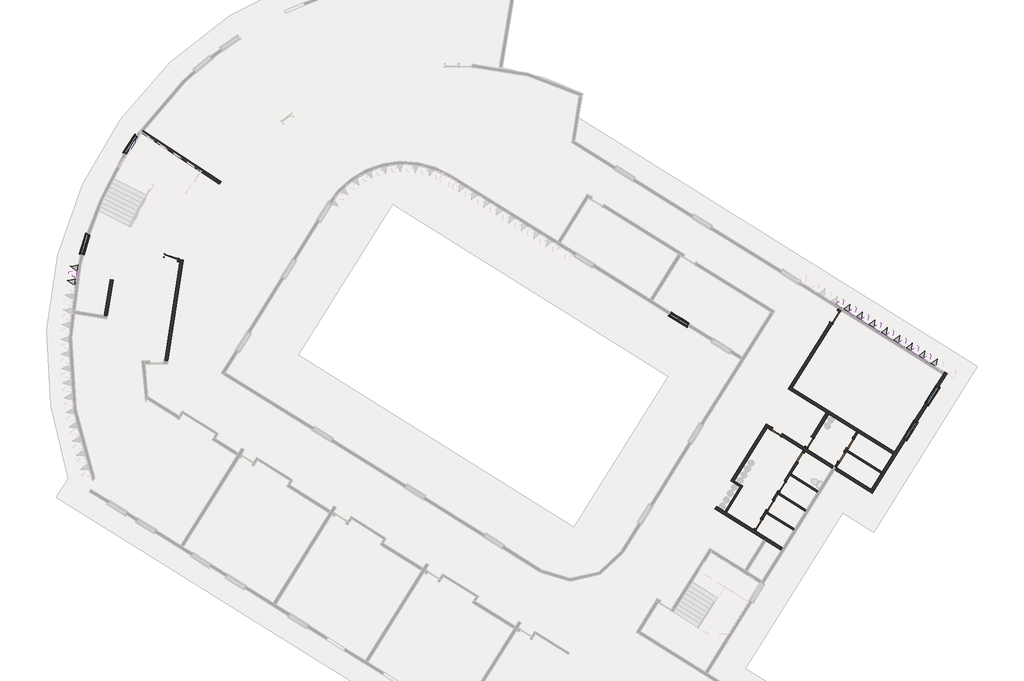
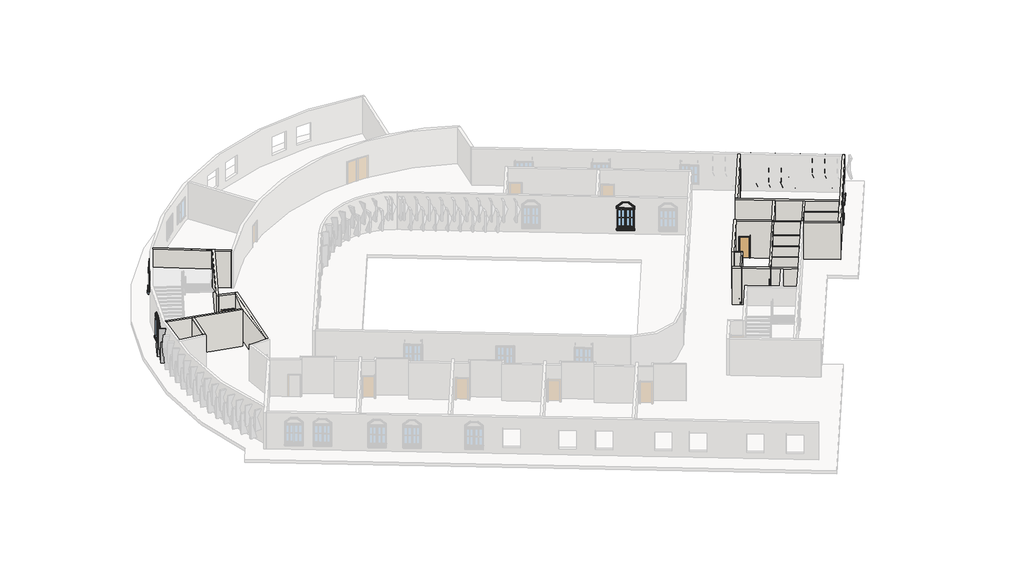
# One storey, part 3 of 7: 22 walls, 19 plates, 10 doors, 5 windows.
"""IFC4 building model written with IfcOpenShell, lengths in millimetres."""

from ifc_helpers import new_model, si_unit, point, frame, frame_2d, origin, place, context, project, spatial, polyline, circle_curve, trimmed, segment, composite_curve, outline, extrude, faceted_brep, transform, mapped, element, save
from ifc_brep_helpers import plane_surface, cylinder_surface, revolved_surface, advanced_brep
from components import m_single_flush_0762_x_2032mm_e53dc8c7, m_single_flush_0762_x_2032mm_1c354163, m_single_flush_0762_x_2032mm_0c256fab, m_single_flush_0915_x_2134mm_727434cd, plate_91021fb5, plate_51c6a2b6, m_window_casement_double_1400_x_1800mm_877d247a, m_window_casement_double_1400_x_1800mm_eb8f2d9a

model = new_model("IFC4")

# Units and contexts
model_context = context("Model", 3, world=origin())
ifc_project = project(units=[si_unit("LENGTHUNIT", "METRE", prefix="MILLI")], contexts=[model_context])

# Site, building, storey
site = spatial("IfcSite", under=ifc_project)
building = spatial("IfcBuilding", under=site)
storey = spatial("IfcBuildingStorey", under=building, Name="\u200fطبقه اول", Elevation=3600.0)

# Doors
placement = place(None, origin())
m_single_flush_0762_x_2032mm_shape = m_single_flush_0762_x_2032mm_e53dc8c7(model_context)
element("IfcDoor", 1, ObjectType="M_Single-Flush : 0762 x 2032mm", at=placement, inside=storey, context=model_context, shape_type="MappedRepresentation", body=[
    mapped(m_single_flush_0762_x_2032mm_shape, transform((56199.6460159, -40782.0527704, 3600.0), x_axis=(-0.5299192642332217, -0.8480480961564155, 0.0), y_axis=(0.8480480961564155, -0.5299192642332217, 0.0), z_axis=(0.0, 0.0, 1.0))),
])
element("IfcDoor", 2, ObjectType="M_Single-Flush : 0762 x 2032mm", at=placement, inside=storey, context=model_context, shape_type="MappedRepresentation", body=[
    mapped(m_single_flush_0762_x_2032mm_shape, transform((52799.2588215, -41725.4772336, 3600.0), x_axis=(0.5299192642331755, 0.8480480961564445, 0.0), y_axis=(-0.8480480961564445, 0.5299192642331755, 0.0), z_axis=(0.0, 0.0, 1.0))),
])
element("IfcDoor", 3, ObjectType="M_Single-Flush : 0762 x 2032mm", at=placement, inside=storey, context=model_context, shape_type="MappedRepresentation", body=[
    mapped(m_single_flush_0762_x_2032mm_shape, transform((51568.7862899, -43694.6449128, 3600.0), x_axis=(-0.5299192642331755, -0.8480480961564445, 0.0), y_axis=(0.8480480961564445, -0.5299192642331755, 0.0), z_axis=(0.0, 0.0, 1.0))),
])
element("IfcDoor", 4, ObjectType="M_Single-Flush : 0762 x 2032mm", at=placement, inside=storey, context=model_context, shape_type="MappedRepresentation", body=[
    mapped(m_single_flush_0762_x_2032mm_shape, transform((50761.1893312, -44987.0702114, 3600.0), x_axis=(-0.5299192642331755, -0.8480480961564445, 0.0), y_axis=(0.8480480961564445, -0.5299192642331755, 0.0), z_axis=(0.0, 0.0, 1.0))),
])
element("IfcDoor", 5, ObjectType="M_Single-Flush : 0762 x 2032mm", at=placement, inside=storey, context=model_context, shape_type="MappedRepresentation", body=[
    mapped(m_single_flush_0762_x_2032mm_shape, transform((49953.5923725, -46279.4955099, 3600.0), x_axis=(-0.5299192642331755, -0.8480480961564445, 0.0), y_axis=(0.8480480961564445, -0.5299192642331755, 0.0), z_axis=(0.0, 0.0, 1.0))),
])
m_single_flush_0762_x_2032mm_2_shape = m_single_flush_0762_x_2032mm_1c354163(model_context)
element("IfcDoor", 6, ObjectType="M_Single-Flush : 0762 x 2032mm", at=placement, inside=storey, context=model_context, shape_type="MappedRepresentation", body=[
    mapped(m_single_flush_0762_x_2032mm_2_shape, transform((55624.1536949, -41703.0330029, 3600.0), x_axis=(0.5299192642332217, 0.8480480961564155, 0.0), y_axis=(-0.8480480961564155, 0.5299192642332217, 0.0), z_axis=(0.0, 0.0, 1.0))),
])
m_single_flush_0762_x_2032mm_3_shape = m_single_flush_0762_x_2032mm_0c256fab(model_context)
element("IfcDoor", 7, ObjectType="M_Single-Flush : 0762 x 2032mm", at=placement, inside=storey, context=model_context, shape_type="MappedRepresentation", body=[
    mapped(m_single_flush_0762_x_2032mm_3_shape, transform((53436.3159523, -40706.1822692, 3600.0), x_axis=(-0.5299192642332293, -0.8480480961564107, 0.0), y_axis=(0.8480480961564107, -0.5299192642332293, 0.0), z_axis=(0.0, 0.0, 1.0))),
])
element("IfcDoor", 8, ObjectType="M_Single-Flush : 0762 x 2032mm", at=placement, inside=storey, context=model_context, shape_type="MappedRepresentation", body=[
    mapped(m_single_flush_0762_x_2032mm_3_shape, transform((51200.5159697, -39994.2020354, 3600.0), x_axis=(-0.8480480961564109, 0.5299192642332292, 0.0), y_axis=(-0.5299192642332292, -0.8480480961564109, 0.0), z_axis=(0.0, 0.0, 1.0))),
])
m_single_flush_0915_x_2134mm_shape = m_single_flush_0915_x_2134mm_727434cd(model_context)
element("IfcDoor", 9, ObjectType="M_Single-Flush : 0915 x 2134mm", at=placement, inside=storey, context=model_context, shape_type="MappedRepresentation", body=[
    mapped(m_single_flush_0915_x_2134mm_shape, transform((55171.0095741, -32166.2746094, 3600.0), x_axis=(0.5299192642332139, 0.8480480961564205, 0.0), y_axis=(-0.8480480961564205, 0.5299192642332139, 0.0), z_axis=(0.0, 0.0, 1.0))),
])
element("IfcDoor", 10, ObjectType="M_Single-Flush : 0915 x 2134mm", at=placement, inside=storey, context=model_context, shape_type="MappedRepresentation", body=[
    mapped(m_single_flush_0915_x_2134mm_shape, transform((10046.2970792, -28155.5122882, 3600.0), x_axis=(-0.9492034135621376, 0.3146631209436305, 0.0), y_axis=(-0.3146631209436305, -0.9492034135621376, 0.0), z_axis=(0.0, 0.0, 1.0))),
])

# Plates
plate_shape = plate_91021fb5(model_context)
element("IfcPlate", 11, ObjectType="مدل پارامتریک کصینوس دار : مدل پارامتریک کصینوس دار", at=placement, inside=storey, context=model_context, shape_type="MappedRepresentation", body=[
    mapped(plate_shape, transform((63809.0351528, -36081.0952123, 850.0), x_axis=(0.0, 0.0, 1.0), y_axis=(-0.8480480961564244, 0.5299192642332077, 0.0), z_axis=(-0.5299192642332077, -0.8480480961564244, 0.0))),
])
element("IfcPlate", 12, ObjectType="مدل پارامتریک کصینوس دار : مدل پارامتریک کصینوس دار", at=placement, inside=storey, context=model_context, shape_type="MappedRepresentation", body=[
    mapped(plate_shape, transform((63385.0111047, -35816.1355801, 1850.0), x_axis=(0.0, 0.0, 1.0), y_axis=(-0.8480480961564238, 0.5299192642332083, 0.0), z_axis=(-0.5299192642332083, -0.8480480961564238, 0.0))),
])
element("IfcPlate", 13, ObjectType="مدل پارامتریک کصینوس دار : مدل پارامتریک کصینوس دار", at=placement, inside=storey, context=model_context, shape_type="MappedRepresentation", body=[
    mapped(plate_shape, transform((62960.9870566, -35551.175948, 850.0), x_axis=(0.0, 0.0, 1.0), y_axis=(-0.848048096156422, 0.5299192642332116, 0.0), z_axis=(-0.5299192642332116, -0.848048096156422, 0.0))),
])
element("IfcPlate", 14, ObjectType="مدل پارامتریک کصینوس دار : مدل پارامتریک کصینوس دار", at=placement, inside=storey, context=model_context, shape_type="MappedRepresentation", body=[
    mapped(plate_shape, transform((62536.9630085, -35286.2163159, 1850.0), x_axis=(0.0, 0.0, 1.0), y_axis=(-0.8480480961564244, 0.5299192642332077, 0.0), z_axis=(-0.5299192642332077, -0.8480480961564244, 0.0))),
])
element("IfcPlate", 15, ObjectType="مدل پارامتریک کصینوس دار : مدل پارامتریک کصینوس دار", at=placement, inside=storey, context=model_context, shape_type="MappedRepresentation", body=[
    mapped(plate_shape, transform((62112.9389604, -35021.2566838, 850.0), x_axis=(0.0, 0.0, 1.0), y_axis=(-0.8480480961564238, 0.5299192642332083, 0.0), z_axis=(-0.5299192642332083, -0.8480480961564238, 0.0))),
])
element("IfcPlate", 16, ObjectType="مدل پارامتریک کصینوس دار : مدل پارامتریک کصینوس دار", at=placement, inside=storey, context=model_context, shape_type="MappedRepresentation", body=[
    mapped(plate_shape, transform((61688.9149124, -34756.2970517, 1850.0), x_axis=(0.0, 0.0, 1.0), y_axis=(-0.8480480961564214, 0.5299192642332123, 0.0), z_axis=(-0.5299192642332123, -0.8480480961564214, 0.0))),
])
element("IfcPlate", 17, ObjectType="مدل پارامتریک کصینوس دار : مدل پارامتریک کصینوس دار", at=placement, inside=storey, context=model_context, shape_type="MappedRepresentation", body=[
    mapped(plate_shape, transform((61264.8908643, -34491.3374196, 850.0), x_axis=(0.0, 0.0, 1.0), y_axis=(-0.848048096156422, 0.5299192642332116, 0.0), z_axis=(-0.5299192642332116, -0.848048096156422, 0.0))),
])
element("IfcPlate", 18, ObjectType="مدل پارامتریک کصینوس دار : مدل پارامتریک کصینوس دار", at=placement, inside=storey, context=model_context, shape_type="MappedRepresentation", body=[
    mapped(plate_shape, transform((60840.8668162, -34226.3777874, 1850.0), x_axis=(0.0, 0.0, 1.0), y_axis=(-0.8480480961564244, 0.5299192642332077, 0.0), z_axis=(-0.5299192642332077, -0.8480480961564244, 0.0))),
])
element("IfcPlate", 19, ObjectType="مدل پارامتریک کصینوس دار : مدل پارامتریک کصینوس دار", at=placement, inside=storey, context=model_context, shape_type="MappedRepresentation", body=[
    mapped(plate_shape, transform((60416.8427681, -33961.4181553, 850.0), x_axis=(0.0, 0.0, 1.0), y_axis=(-0.8480480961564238, 0.5299192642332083, 0.0), z_axis=(-0.5299192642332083, -0.8480480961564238, 0.0))),
])
element("IfcPlate", 20, ObjectType="مدل پارامتریک کصینوس دار : مدل پارامتریک کصینوس دار", at=placement, inside=storey, context=model_context, shape_type="MappedRepresentation", body=[
    mapped(plate_shape, transform((59992.8187201, -33696.4585232, 1850.0), x_axis=(0.0, 0.0, 1.0), y_axis=(-0.8480480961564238, 0.5299192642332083, 0.0), z_axis=(-0.5299192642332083, -0.8480480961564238, 0.0))),
])
element("IfcPlate", 21, ObjectType="مدل پارامتریک کصینوس دار : مدل پارامتریک کصینوس دار", at=placement, inside=storey, context=model_context, shape_type="MappedRepresentation", body=[
    mapped(plate_shape, transform((59568.794672, -33431.4988911, 850.0), x_axis=(0.0, 0.0, 1.0), y_axis=(-0.8480480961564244, 0.5299192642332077, 0.0), z_axis=(-0.5299192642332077, -0.8480480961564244, 0.0))),
])
element("IfcPlate", 22, ObjectType="مدل پارامتریک کصینوس دار : مدل پارامتریک کصینوس دار", at=placement, inside=storey, context=model_context, shape_type="MappedRepresentation", body=[
    mapped(plate_shape, transform((59144.7706239, -33166.539259, 1850.0), x_axis=(0.0, 0.0, 1.0), y_axis=(-0.848048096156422, 0.5299192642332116, 0.0), z_axis=(-0.5299192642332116, -0.848048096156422, 0.0))),
])
element("IfcPlate", 23, ObjectType="مدل پارامتریک کصینوس دار : مدل پارامتریک کصینوس دار", at=placement, inside=storey, context=model_context, shape_type="MappedRepresentation", body=[
    mapped(plate_shape, transform((58720.7465758, -32901.5796269, 850.0), x_axis=(0.0, 0.0, 1.0), y_axis=(-0.8480480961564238, 0.5299192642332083, 0.0), z_axis=(-0.5299192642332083, -0.8480480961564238, 0.0))),
])
element("IfcPlate", 24, ObjectType="مدل پارامتریک کصینوس دار : مدل پارامتریک کصینوس دار", at=placement, inside=storey, context=model_context, shape_type="MappedRepresentation", body=[
    mapped(plate_shape, transform((58296.7225277, -32636.6199947, 1850.0), x_axis=(0.0, 0.0, 1.0), y_axis=(-0.8480480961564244, 0.5299192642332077, 0.0), z_axis=(-0.5299192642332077, -0.8480480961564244, 0.0))),
])
element("IfcPlate", 25, ObjectType="مدل پارامتریک کصینوس دار : مدل پارامتریک کصینوس دار", at=placement, inside=storey, context=model_context, shape_type="MappedRepresentation", body=[
    mapped(plate_shape, transform((57872.6984797, -32371.6603626, 850.0), x_axis=(0.0, 0.0, 1.0), y_axis=(-0.848048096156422, 0.5299192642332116, 0.0), z_axis=(-0.5299192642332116, -0.848048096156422, 0.0))),
])
element("IfcPlate", 26, ObjectType="مدل پارامتریک کصینوس دار : مدل پارامتریک کصینوس دار", at=placement, inside=storey, context=model_context, shape_type="MappedRepresentation", body=[
    mapped(plate_shape, transform((57448.6744316, -32106.7007305, 1850.0), x_axis=(0.0, 0.0, 1.0), y_axis=(-0.8480480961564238, 0.5299192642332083, 0.0), z_axis=(-0.5299192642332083, -0.8480480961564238, 0.0))),
])
plate_2_shape = plate_51c6a2b6(model_context)
element("IfcPlate", 27, ObjectType="مدل پارامتریک کصینوس دار : مدل پارامتریک کصینوس دار", at=placement, inside=storey, context=model_context, shape_type="MappedRepresentation", body=[
    mapped(plate_2_shape, transform((2628.6863166, -31671.3156746, 850.0), x_axis=(0.0, 0.0, 1.0), y_axis=(-0.1800216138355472, -0.9836626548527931, 0.0), z_axis=(0.9836626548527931, -0.1800216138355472, 0.0))),
])
element("IfcPlate", 28, ObjectType="مدل پارامتریک کصینوس دار : مدل پارامتریک کصینوس دار", at=placement, inside=storey, context=model_context, shape_type="MappedRepresentation", body=[
    mapped(plate_2_shape, transform((2685.5211159, -31173.1049186, 1850.0), x_axis=(0.0, 0.0, 1.0), y_axis=(-0.1989768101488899, -0.9800041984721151, 0.0), z_axis=(0.9800041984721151, -0.1989768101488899, 0.0))),
])
element("IfcPlate", 29, ObjectType="مدل پارامتریک کصینوس دار : مدل پارامتریک کصینوس دار", at=placement, inside=storey, context=model_context, shape_type="MappedRepresentation", body=[
    mapped(plate_2_shape, transform((2751.9628447, -30676.0841459, 850.0), x_axis=(0.0, 0.0, 1.0), y_axis=(-0.21785785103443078, -0.9759805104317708, 0.0), z_axis=(0.9759805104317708, -0.21785785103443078, 0.0))),
])

# Walls
element("IfcWall", 30, ObjectType="Generic - 200mm", at=placement, inside=storey, context=model_context, shape_type="SweptSolid", body=[
    extrude(outline(composite_curve([segment(polyline([(13319.2946092, -23124.9971226), (8007.113091, -19649.1953048)]), True, "CONTINUOUS"), segment(trimmed(circle_curve(frame_2d((28463.2186017, -34366.1157481)), 25200.0), [point((8007.113091, -19649.1953048))], [point((8124.6948433, -19487.1221218))], False, "CARTESIAN"), True, "CONTINUOUS"), segment(polyline([(8124.6948433, -19487.1221218), (13437.2528486, -22963.1702781)]), True, "CONTINUOUS"), segment(trimmed(circle_curve(frame_2d((29284.4488792, -34638.3554793)), 19683.5863478), [point((13437.2528486, -22963.1702781))], [point((13319.2946092, -23124.9971226))], True, "CARTESIAN"), True, "CONTINUOUS")], self_intersect=False)), frame((0.0, 0.0, 3600.0), z_axis=(0.0, 0.0, 1.0), x_axis=(1.0, 0.0, 0.0)), (0.0, 0.0, 1.0), 3600.0),
])
element("IfcWall", 31, ObjectType="Generic - 200mm", at=placement, inside=storey, context=model_context, shape_type="AdvancedBrep", body=[
    advanced_brep(
    [(12127.9583762, -22106.4886885, 7200.0), (12010.6126533, -22268.7384634, 7200.0), (9117.665657, -27953.0203262, 7200.0), (9307.5063397, -28015.9529504, 7200.0), (9371.3471797, -27826.3938849, 7200.0), (12295.5409419, -22216.1392689, 7200.0), (12127.9583762, -22106.4886885, 3600.0), (12295.5409419, -22216.1392689, 3600.0), (9371.3471797, -27826.3938849, 3600.0), (9307.5063397, -28015.9529504, 3600.0), (9117.665657, -27953.0203262, 3600.0), (12010.6126533, -22268.7384634, 3600.0)],
    [
        (0, 1, circle_curve(frame((29284.4488792, -34638.3554793, 7200.0), z_axis=(0.0, 0.0, 1.0), x_axis=(1.0, 0.0, 0.0)), 21246.0078989)),
        (1, 2, circle_curve(frame((29284.4488792, -34638.3554793, 7200.0), z_axis=(0.0, 0.0, 1.0), x_axis=(1.0, 0.0, 0.0)), 21246.0076974)),
        (2, 3),
        (3, 4, circle_curve(frame((29284.4488792, -34638.3554793, 7200.0), z_axis=(0.0, 0.0, -1.0), x_axis=(1.0, 0.0, 0.0)), 21046.0078989)),
        (4, 5, circle_curve(frame((29284.4488792, -34638.3554793, 7200.0), z_axis=(0.0, 0.0, -1.0), x_axis=(1.0, 0.0, 0.0)), 21046.0076988)),
        (5, 0),
        (6, 7),
        (7, 8, circle_curve(frame((29284.4488792, -34638.3554793, 3600.0), z_axis=(0.0, 0.0, 1.0), x_axis=(1.0, 0.0, 0.0)), 21046.0078989)),
        (8, 9, circle_curve(frame((29284.4488792, -34638.3554793, 3600.0), z_axis=(0.0, 0.0, 1.0), x_axis=(1.0, 0.0, 0.0)), 21046.0076988)),
        (9, 10),
        (10, 11, circle_curve(frame((29284.4488792, -34638.3554793, 3600.0), z_axis=(0.0, 0.0, -1.0), x_axis=(1.0, 0.0, 0.0)), 21246.0078989)),
        (11, 6, circle_curve(frame((29284.4488792, -34638.3554793, 3600.0), z_axis=(0.0, 0.0, -1.0), x_axis=(1.0, 0.0, 0.0)), 21246.0076974)),
        (0, 6),
        (10, 2),
        (3, 9),
        (7, 5),
    ],
    [
        plane_surface(frame((50530.456778, -34638.3554793, 7200.0), z_axis=(0.0, 0.0, 1.0), x_axis=(0.0, 1.0, 0.0))),
        plane_surface(frame((50530.456778, -34638.3554793, 3600.0), z_axis=(0.0, 0.0, -1.0), x_axis=(0.0, -1.0, 0.0))),
        cylinder_surface(frame((29284.4488792, -34638.3554793, 3600.0), z_axis=(0.0, 0.0, 1.0), x_axis=(1.0, 0.0, 0.0)), 21246.0078989),
        revolved_surface(polyline([(50330.4567781, -34638.3554793, 3600.0), (50330.4567781, -34638.3554793, 7200.0)]), (29284.4488792, -34638.3554793, 3600.0), (0.0, 0.0, -1.0)),
        plane_surface(frame((8116.6170805, -19481.8367786, 3600.0), z_axis=(0.5475199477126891, 0.8367926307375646, 0.0), x_axis=(-0.8367926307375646, 0.5475199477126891, 0.0))),
        plane_surface(frame((9117.665657, -27953.0203262, 3600.0), z_axis=(-0.3146631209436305, -0.9492034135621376, 0.0), x_axis=(0.9492034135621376, -0.3146631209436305, 0.0))),
    ],
    [
        (0, [[1, 2, 3, 4, 5, 6]]),
        (1, [[7, 8, 9, 10, 11, 12]]),
        (2, [[-2, -1, 13, -12, -11, 14]]),
        (3, [[-5, -4, 15, -9, -8, 16]]),
        (4, [[-6, -16, -7, -13]]),
        (5, [[-3, -14, -10, -15]]),
    ],
),
])
element("IfcWall", 32, ObjectType="Generic - 200mm", at=placement, inside=storey, context=model_context, shape_type="AdvancedBrep", body=[
    advanced_brep(
    [(9307.5063397, -28015.9529504, 3600.0), (9580.5702054, -28106.4742517, 3600.0), (9580.5702054, -28106.4742517, 5734.0), (10449.0913288, -28394.3910074, 5734.0), (10449.0913288, -28394.3910074, 3600.0), (10600.7215267, -28444.6567677, 3600.0), (10600.7215267, -28444.6567677, 7200.0), (9307.5063397, -28015.9529504, 7200.0), (9643.5028296, -27916.633569, 5734.0), (9643.5028296, -27916.633569, 3600.0), (9371.3410113, -27826.4112985, 3600.0), (9371.3410113, -27826.4112985, 7200.0), (10664.6186376, -28255.1358146, 7200.0), (10664.6186376, -28255.1358146, 3600.0), (10512.023953, -28204.5503247, 3600.0), (10512.023953, -28204.5503247, 5734.0)],
    [
        (0, 1),
        (1, 2),
        (2, 3),
        (3, 4),
        (4, 5),
        (5, 6),
        (6, 7),
        (7, 0),
        (8, 9),
        (9, 10),
        (10, 11),
        (11, 12),
        (12, 13),
        (13, 14),
        (14, 15),
        (15, 8),
        (13, 5, circle_curve(frame((29284.4488792, -34638.3554793, 3600.0), z_axis=(0.0, 0.0, 1.0), x_axis=(1.0, 0.0, 0.0)), 19683.5863478)),
        (4, 14),
        (9, 1),
        (0, 10, circle_curve(frame((29284.4488792, -34638.3554793, 3600.0), z_axis=(0.0, 0.0, -1.0), x_axis=(1.0, 0.0, 0.0)), 21046.0078989)),
        (6, 12, circle_curve(frame((29284.4488792, -34638.3554793, 7200.0), z_axis=(0.0, 0.0, -1.0), x_axis=(1.0, 0.0, 0.0)), 19683.5863478)),
        (11, 7, circle_curve(frame((29284.4488792, -34638.3554793, 7200.0), z_axis=(0.0, 0.0, 1.0), x_axis=(1.0, 0.0, 0.0)), 21046.0078989)),
        (8, 2),
        (15, 3),
    ],
    [
        plane_surface(frame((9117.665657, -27953.0203262, 3600.0), z_axis=(-0.3146631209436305, -0.9492034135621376, 0.0), x_axis=(0.9492034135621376, -0.3146631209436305, 0.0))),
        plane_surface(frame((9180.5982812, -27763.1796435, 3600.0), z_axis=(0.3146631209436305, 0.9492034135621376, 0.0), x_axis=(-0.9492034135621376, 0.3146631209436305, 0.0))),
        plane_surface(frame((9212.8104399, -27984.5610412, 3600.0), z_axis=(0.0, 0.0, -1.0000000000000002), x_axis=(0.3146631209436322, 0.949203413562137, 0.0))),
        plane_surface(frame((10695.8842163, -28476.2034188, 7200.0), z_axis=(0.0, 0.0, 1.0), x_axis=(0.3146631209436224, 0.9492034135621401, 0.0))),
        cylinder_surface(frame((29284.4488792, -34638.3554793, 3600.0), z_axis=(0.0, 0.0, -1.0), x_axis=(1.0, 0.0, 0.0)), 21046.0078989),
        revolved_surface(polyline([(48968.035227, -34638.3554793, 7200.0), (48968.035227, -34638.3554793, 3600.0)]), (29284.4488792, -34638.3554793, 3600.0), (0.0, 0.0, 1.0)),
        plane_surface(frame((9580.5702054, -28106.4742517, 3600.0), z_axis=(0.9492034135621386, -0.3146631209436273, 0.0), x_axis=(0.3146631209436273, 0.9492034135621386, 0.0))),
        plane_surface(frame((9580.5702054, -28106.4742517, 5734.0), z_axis=(0.0, 0.0, -1.0), x_axis=(0.3146631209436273, 0.9492034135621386, 0.0))),
        plane_surface(frame((10449.0913288, -28394.3910074, 5734.0), z_axis=(-0.9492034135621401, 0.3146631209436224, 0.0), x_axis=(0.3146631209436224, 0.9492034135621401, 0.0))),
    ],
    [
        (0, [[1, 2, 3, 4, 5, 6, 7, 8]]),
        (1, [[9, 10, 11, 12, 13, 14, 15, 16]]),
        (2, [[-14, 17, -5, 18]]),
        (2, [[-10, 19, -1, 20]]),
        (3, [[-7, 21, -12, 22]]),
        (4, [[-8, -22, -11, -20]]),
        (5, [[-6, -17, -13, -21]]),
        (6, [[-2, -19, -9, 23]]),
        (7, [[-3, -23, -16, 24]]),
        (8, [[-4, -24, -15, -18]]),
    ],
),
])
element("IfcWall", 33, ObjectType="Generic - 200mm", at=placement, inside=storey, context=model_context, shape_type="AdvancedBrep", body=[
    advanced_brep(
    [(3818.4497734, -29105.3772639, 3600.0), (5894.1620192, -29622.9104526, 3600.0), (6088.9624389, -29671.4796522, 3600.0), (10009.3816919, -30648.9499549, 3600.0), (10009.3816919, -30648.9499549, 7200.0), (6088.9624389, -29671.4796522, 7200.0), (5894.1620192, -29622.9104526, 7200.0), (3818.4497734, -29105.3772639, 7200.0), (3860.9970863, -28909.8627746, 3600.0), (3860.9970863, -28909.8627746, 7200.0), (10050.9378243, -30453.1883365, 7200.0), (10050.9378243, -30453.1883365, 3600.0)],
    [
        (0, 1),
        (1, 2),
        (2, 3),
        (3, 4),
        (4, 5),
        (5, 6),
        (6, 7),
        (7, 0),
        (8, 9),
        (9, 10),
        (10, 11),
        (11, 8),
        (0, 8, circle_curve(frame((28463.2186017, -34366.1157481, 3600.0), z_axis=(0.0, 0.0, -1.0), x_axis=(1.0, 0.0, 0.0)), 25200.0)),
        (11, 3, circle_curve(frame((29284.4488792, -34638.3554793, 3600.0), z_axis=(0.0, 0.0, 1.0), x_axis=(1.0, 0.0, 0.0)), 19683.5863478)),
        (4, 10, circle_curve(frame((29284.4488792, -34638.3554793, 7200.0), z_axis=(0.0, 0.0, -1.0), x_axis=(1.0, 0.0, 0.0)), 19683.5863478)),
        (9, 7, circle_curve(frame((28463.2186017, -34366.1157481, 7200.0), z_axis=(0.0, 0.0, 1.0), x_axis=(1.0, 0.0, 0.0)), 25200.0)),
    ],
    [
        plane_surface(frame((6088.9624389, -29671.4796522, 3600.0), z_axis=(-0.24192189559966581, -0.970295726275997, 0.0), x_axis=(0.970295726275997, -0.24192189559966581, 0.0))),
        plane_surface(frame((6137.346818, -29477.420507, 3600.0), z_axis=(0.24192189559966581, 0.970295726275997, 0.0), x_axis=(-0.970295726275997, 0.24192189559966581, 0.0))),
        plane_surface(frame((3718.2651778, -29080.3984387, 3600.0), z_axis=(0.0, 0.0, -1.0), x_axis=(0.2419218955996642, 0.9702957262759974, 0.0))),
        plane_surface(frame((10102.8105606, -30672.2443881, 7200.0), z_axis=(0.0, 0.0, 1.0000000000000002), x_axis=(0.24192189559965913, 0.9702957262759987, 0.0))),
        revolved_surface(polyline([(48968.035227, -34638.3554793, 7200.0), (48968.035227, -34638.3554793, 3600.0)]), (29284.4488792, -34638.3554793, 3600.0), (0.0, 0.0, 1.0)),
        cylinder_surface(frame((28463.2186017, -34366.1157481, 3600.0), z_axis=(0.0, 0.0, -1.0), x_axis=(1.0, 0.0, 0.0)), 25200.0),
    ],
    [
        (0, [[1, 2, 3, 4, 5, 6, 7, 8]]),
        (1, [[9, 10, 11, 12]]),
        (2, [[-3, -2, -1, 13, -12, 14]]),
        (3, [[-7, -6, -5, 15, -10, 16]]),
        (4, [[-4, -14, -11, -15]]),
        (5, [[-8, -16, -9, -13]]),
    ],
),
])
element("IfcWall", 34, ObjectType="Generic - 200mm", at=placement, inside=storey, context=model_context, shape_type="Brep", body=[
    faceted_brep([(47002.5690756, -45238.5119876, 3600.0), (50323.7348125, -47313.8066692, 3600.0), (50493.3444317, -47419.790522, 3600.0), (51497.2239852, -48047.084088, 3600.0), (51497.2239852, -48047.084088, 7200.0), (50493.3444317, -47419.790522, 7200.0), (50323.7348125, -47313.8066692, 7200.0), (47002.5690756, -45238.5119876, 7200.0), (47108.5529284, -45068.9023684, 3600.0), (47108.5529284, -45068.9023684, 7200.0), (47670.529572, -45420.0643494, 7200.0), (47775.6877021, -45485.774442, 7200.0), (49646.1222245, -46654.5516498, 7200.0), (49751.2801884, -46720.2616386, 7200.0), (51603.2078381, -47877.4744688, 7200.0), (51603.2078381, -47877.4744688, 3600.0), (49751.2801884, -46720.2616386, 3600.0), (49646.1222245, -46654.5516498, 3600.0), (47775.6877021, -45485.774442, 3600.0), (47670.529572, -45420.0643494, 3600.0)], [[[0, 1, 2, 3, 4, 5, 6, 7]], [[8, 9, 10, 11, 12, 13, 14, 15, 16, 17, 18, 19]], [[3, 2, 1, 0, 8, 19, 18, 17, 16, 15]], [[7, 6, 5, 4, 14, 13, 12, 11, 10, 9]], [[0, 7, 9, 8]], [[4, 3, 15, 14]]]),
])
element("IfcWall", 35, ObjectType="Generic - 200mm", at=placement, inside=storey, context=model_context, shape_type="Brep", body=[
    faceted_brep([(50506.3775234, -39442.538354, 3600.0), (48083.7478596, -43319.5562559, 3600.0), (48083.7478596, -43319.5562559, 7200.0), (50506.3775234, -39442.538354, 7200.0), (50675.9871426, -39548.5222068, 3600.0), (50675.9871426, -39548.5222068, 7200.0), (50570.0032897, -39718.1318261, 7200.0), (48319.25596, -43320.0804941, 7200.0), (48253.5458674, -43425.2386241, 7200.0), (48253.5458674, -43425.2386241, 3600.0), (48319.25596, -43320.0804941, 3600.0), (50570.0032897, -39718.1318261, 3600.0)], [[[0, 1, 2, 3]], [[4, 5, 6, 7, 8, 9, 10, 11]], [[1, 0, 4, 11, 10, 9]], [[3, 2, 8, 7, 6, 5]], [[0, 3, 5, 4]], [[2, 1, 9, 8]]]),
])
element("IfcWall", 36, ObjectType="Generic - 200mm", at=placement, inside=storey, context=model_context, shape_type="Brep", body=[
    faceted_brep([(50930.4015714, -39707.4979861, 5632.0), (50930.4015714, -39707.4979861, 3600.0), (50675.9871426, -39548.5222068, 3600.0), (50675.9871426, -39548.5222068, 7200.0), (53096.6199766, -41061.1014771, 7200.0), (53266.2295959, -41167.0853299, 7200.0), (55085.8372426, -42304.1023809, 7200.0), (55085.8372426, -42304.1023809, 3600.0), (53266.2295959, -41167.0853299, 3600.0), (53096.6199766, -41061.1014771, 3600.0), (51576.6142207, -40111.2964655, 3600.0), (51576.6142207, -40111.2964655, 5632.0), (50570.0032897, -39718.1318261, 3600.0), (50824.4177186, -39877.1076053, 3600.0), (50824.4177186, -39877.1076053, 5632.0), (51470.6303679, -40280.9060847, 5632.0), (51470.6303679, -40280.9060847, 3600.0), (53022.7677762, -41250.7891811, 3600.0), (53127.9257401, -41316.4991699, 3600.0), (54979.8533898, -42473.7120001, 3600.0), (54979.8533898, -42473.7120001, 7200.0), (53127.9257401, -41316.4991699, 7200.0), (53022.7677762, -41250.7891811, 7200.0), (50570.0032897, -39718.1318261, 7200.0)], [[[0, 1, 2, 3, 4, 5, 6, 7, 8, 9, 10, 11]], [[12, 13, 14, 15, 16, 17, 18, 19, 20, 21, 22, 23]], [[2, 1, 13, 12]], [[10, 9, 8, 7, 19, 18, 17, 16]], [[6, 5, 4, 3, 23, 22, 21, 20]], [[7, 6, 20, 19]], [[3, 2, 12, 23]], [[14, 13, 1, 0]], [[15, 14, 0, 11]], [[16, 15, 11, 10]]]),
])
element("IfcWall", 37, ObjectType="Generic - 200mm", at=placement, inside=storey, context=model_context, shape_type="SweptSolid", body=[
    extrude(outline(polyline([(-2799.9999999, 0.0), (-2700.0, 0.0), (-2700.0, -2032.0), (-1938.0, -2032.0), (-1938.0, 0.0), (0.0, 0.0), (0.0, -3600.0), (-2799.9999999, -3600.0), (-2799.9999999, 0.0)])), frame((54750.0035357, -38792.5506607, 3600.0), z_axis=(-0.8480480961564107, 0.5299192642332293, 0.0), x_axis=(0.5299192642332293, 0.8480480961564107, 0.0)), (0.0, 0.0, 1.0), 200.0),
])
element("IfcWall", 38, ObjectType="Generic - 200mm", at=placement, inside=storey, context=model_context, shape_type="Brep", body=[
    faceted_brep([(51990.1514632, -37068.0036848, 3600.0), (54580.3939165, -38686.5668078, 3600.0), (54750.0035357, -38792.5506607, 3600.0), (56634.0628378, -39969.8415757, 3600.0), (56739.2208017, -40035.5515645, 3600.0), (59113.7554709, -41519.3255043, 3600.0), (59113.7554709, -41519.3255043, 7200.0), (56739.2208017, -40035.5515645, 7200.0), (56634.0628378, -39969.8415757, 7200.0), (54750.0035357, -38792.5506607, 7200.0), (54580.3939165, -38686.5668078, 7200.0), (51990.1514632, -37068.0036848, 7200.0), (52096.1353161, -36898.3940655, 3600.0), (52096.1353161, -36898.3940655, 7200.0), (52265.7449353, -37004.3779184, 7200.0), (59219.7393238, -41349.7158851, 7200.0), (59219.7393238, -41349.7158851, 3600.0), (52265.7449353, -37004.3779184, 3600.0)], [[[0, 1, 2, 3, 4, 5, 6, 7, 8, 9, 10, 11]], [[12, 13, 14, 15, 16, 17]], [[5, 4, 3, 2, 1, 0, 12, 17, 16]], [[11, 10, 9, 8, 7, 6, 15, 14, 13]], [[0, 11, 13, 12]], [[6, 5, 16, 15]]]),
])
element("IfcWall", 39, ObjectType="Generic - 200mm", at=placement, inside=storey, context=model_context, shape_type="SweptSolid", body=[
    extrude(outline(polyline([(915.0, -2134.0), (915.0, 0.0), (1015.0, 0.0), (1015.0, -3600.0), (-5185.0, -3600.0), (-5185.0, 0.0), (0.0, 0.0), (0.0, -2134.0), (915.0, -2134.0)])), frame((55013.3763203, -32607.2485398, 3600.0), z_axis=(-0.8480480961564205, 0.5299192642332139, 0.0), x_axis=(0.5299192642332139, 0.8480480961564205, 0.0)), (0.0, 0.0, 1.0), 200.0),
])
element("IfcWall", 40, ObjectType="Generic - 200mm", at=placement, inside=storey, context=model_context, shape_type="Brep", body=[
    faceted_brep([(55149.463009, -42579.6958529, 3600.0), (57693.6072975, -44169.4536456, 3600.0), (57693.6072975, -44169.4536456, 7200.0), (55149.463009, -42579.6958529, 7200.0), (55255.4468618, -42410.0862337, 3600.0), (55255.4468618, -42410.0862337, 7200.0), (57629.9815311, -43893.8601736, 7200.0), (57799.5911503, -43999.8440264, 7200.0), (57799.5911503, -43999.8440264, 3600.0), (57629.9815311, -43893.8601736, 3600.0)], [[[0, 1, 2, 3]], [[4, 5, 6, 7, 8, 9]], [[1, 0, 4, 9, 8]], [[3, 2, 7, 6, 5]], [[2, 1, 8, 7]], [[0, 3, 5, 4]]]),
])
element("IfcWall", 41, ObjectType="Generic - 200mm", at=placement, inside=storey, context=model_context, shape_type="Brep", body=[
    faceted_brep([(57799.5911503, -43999.8440264, 3600.0), (62780.8322341, -36028.1919225, 3600.0), (62780.8322341, -36028.1919225, 7200.0), (57799.5911503, -43999.8440264, 7200.0), (60714.1471036, -39335.5794975, 6000.0), (60714.1471036, -39335.5794975, 4200.0), (59972.2601337, -40522.8468322, 4200.0), (59972.2601337, -40522.8468322, 6000.0), (62197.9210434, -36961.0448283, 6000.0), (62197.9210434, -36961.0448283, 4200.0), (61456.0340735, -38148.3121629, 4200.0), (61456.0340735, -38148.3121629, 6000.0), (57629.9815311, -43893.8601736, 3600.0), (57629.9815311, -43893.8601736, 7200.0), (58306.1585122, -42811.7508029, 7200.0), (58371.868501, -42706.5928389, 7200.0), (59113.7554709, -41519.3255043, 7200.0), (59219.7393238, -41349.7158851, 7200.0), (62505.238762, -36091.8176889, 7200.0), (62611.2226149, -35922.2080697, 7200.0), (62611.2226149, -35922.2080697, 3600.0), (62505.238762, -36091.8176889, 3600.0), (59219.7393238, -41349.7158851, 3600.0), (59113.7554709, -41519.3255043, 3600.0), (58371.868501, -42706.5928389, 3600.0), (58306.1585122, -42811.7508029, 3600.0), (60544.5374844, -39229.5956447, 6000.0), (59802.6505144, -40416.8629793, 6000.0), (59802.6505144, -40416.8629793, 4200.0), (60544.5374844, -39229.5956447, 4200.0), (62028.3114242, -36855.0609755, 6000.0), (61286.4244543, -38042.3283101, 6000.0), (61286.4244543, -38042.3283101, 4200.0), (62028.3114242, -36855.0609755, 4200.0)], [[[0, 1, 2, 3], [4, 5, 6, 7], [8, 9, 10, 11]], [[12, 13, 14, 15, 16, 17, 18, 19, 20, 21, 22, 23, 24, 25], [26, 27, 28, 29], [30, 31, 32, 33]], [[1, 0, 12, 25, 24, 23, 22, 21, 20]], [[3, 2, 19, 18, 17, 16, 15, 14, 13]], [[0, 3, 13, 12]], [[2, 1, 20, 19]], [[5, 4, 26, 29]], [[6, 5, 29, 28]], [[7, 6, 28, 27]], [[4, 7, 27, 26]], [[9, 8, 30, 33]], [[10, 9, 33, 32]], [[11, 10, 32, 31]], [[8, 11, 31, 30]]]),
])
element("IfcWall", 42, ObjectType="Generic - 200mm", at=placement, inside=storey, context=model_context, shape_type="AdvancedBrep", body=[
    advanced_brep(
    [(10664.6186376, -28255.1358146, 7200.0), (10600.7163442, -28444.6729532, 7200.0), (10050.9380095, -30453.188073, 7200.0), (10009.3822388, -30648.9473164, 7200.0), (9607.803018, -35161.0209227, 7200.0), (9807.874288, -35161.0209227, 7200.0), (10854.4692214, -28318.071721, 7200.0), (10664.6186376, -28255.1358146, 3600.0), (10854.4692214, -28318.071721, 3600.0), (9807.874288, -35161.0209227, 3600.0), (9607.803018, -35161.0209227, 3600.0), (10009.3822388, -30648.9473164, 3600.0), (10050.9380095, -30453.188073, 3600.0), (10600.7163442, -28444.6729532, 3600.0)],
    [
        (0, 1, circle_curve(frame((29284.4488792, -34638.3554793, 7200.0), z_axis=(0.0, 0.0, 1.0), x_axis=(1.0, 0.0, 0.0)), 19683.5863478)),
        (1, 2, circle_curve(frame((29284.4488792, -34638.3554793, 7200.0), z_axis=(0.0, 0.0, 1.0), x_axis=(1.0, 0.0, 0.0)), 19683.5861741)),
        (2, 3, circle_curve(frame((29284.4488792, -34638.3554793, 7200.0), z_axis=(0.0, 0.0, 1.0), x_axis=(1.0, 0.0, 0.0)), 19683.5862228)),
        (3, 4, circle_curve(frame((29284.4488792, -34638.3554793, 7200.0), z_axis=(0.0, 0.0, 1.0), x_axis=(1.0, 0.0, 0.0)), 19683.586347)),
        (4, 5),
        (5, 6, circle_curve(frame((29284.4488792, -34638.3554793, 7200.0), z_axis=(0.0, 0.0, -1.0), x_axis=(1.0, 0.0, 0.0)), 19483.5863478)),
        (6, 0),
        (7, 8),
        (8, 9, circle_curve(frame((29284.4488792, -34638.3554793, 3600.0), z_axis=(0.0, 0.0, 1.0), x_axis=(1.0, 0.0, 0.0)), 19483.5863478)),
        (9, 10),
        (10, 11, circle_curve(frame((29284.4488792, -34638.3554793, 3600.0), z_axis=(0.0, 0.0, -1.0), x_axis=(1.0, 0.0, 0.0)), 19683.5863478)),
        (11, 12, circle_curve(frame((29284.4488792, -34638.3554793, 3600.0), z_axis=(0.0, 0.0, -1.0), x_axis=(1.0, 0.0, 0.0)), 19683.586347)),
        (12, 13, circle_curve(frame((29284.4488792, -34638.3554793, 3600.0), z_axis=(0.0, 0.0, -1.0), x_axis=(1.0, 0.0, 0.0)), 19683.5862228)),
        (13, 7, circle_curve(frame((29284.4488792, -34638.3554793, 3600.0), z_axis=(0.0, 0.0, -1.0), x_axis=(1.0, 0.0, 0.0)), 19683.5861741)),
        (0, 7),
        (10, 4),
        (5, 9),
        (8, 6),
    ],
    [
        plane_surface(frame((48968.0352269, -34638.3554793, 7200.0), z_axis=(0.0, 0.0, 1.0), x_axis=(0.0, 1.0, 0.0))),
        plane_surface(frame((48968.0352269, -34638.3554793, 3600.0), z_axis=(0.0, 0.0, -1.0), x_axis=(0.0, -1.0, 0.0))),
        cylinder_surface(frame((29284.4488792, -34638.3554793, 3600.0), z_axis=(0.0, 0.0, 1.0), x_axis=(1.0, 0.0, 0.0)), 19683.5863478),
        revolved_surface(polyline([(48768.035227, -34638.3554793, 3600.0), (48768.035227, -34638.3554793, 7200.0)]), (29284.4488792, -34638.3554793, 3600.0), (0.0, 0.0, -1.0)),
        plane_surface(frame((8250.8518702, -35161.0209227, 3600.0), z_axis=(0.0, -1.0, 0.0), x_axis=(-1.0, 0.0, 0.0))),
        plane_surface(frame((9180.5982812, -27763.1796435, 3600.0), z_axis=(0.3146631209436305, 0.9492034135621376, 0.0), x_axis=(-0.9492034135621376, 0.3146631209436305, 0.0))),
    ],
    [
        (0, [[1, 2, 3, 4, 5, 6, 7]]),
        (1, [[8, 9, 10, 11, 12, 13, 14]]),
        (2, [[-4, -3, -2, -1, 15, -14, -13, -12, -11, 16]]),
        (3, [[-6, 17, -9, 18]]),
        (4, [[-5, -16, -10, -17]]),
        (5, [[-7, -18, -8, -15]]),
    ],
),
])
element("IfcWall", 43, ObjectType="Generic - 200mm", at=placement, inside=storey, context=model_context, shape_type="SweptSolid", body=[
    extrude(outline(polyline([(6088.9624389, -29671.4796522), (5702.0784662, -32114.1689208), (5504.5407981, -32082.8820278), (5894.1620192, -29622.9104526), (6088.9624389, -29671.4796522)])), frame((0.0, 0.0, 3600.0), z_axis=(0.0, 0.0, 1.0), x_axis=(1.0, 0.0, 0.0)), (0.0, 0.0, 1.0), 3600.0),
])
element("IfcWall", 44, ObjectType="Interior - Blockwork 100", at=placement, inside=storey, context=model_context, shape_type="Brep", body=[
    faceted_brep([(48794.4586114, -43614.2672705, 3600.0), (48793.749979, -43615.4058178, 3600.0), (48728.2270142, -43720.6804163, 3600.0), (47670.529572, -45420.0643494, 3600.0), (47670.529572, -45420.0643494, 7200.0), (48728.2270142, -43720.6804163, 7200.0), (48793.749979, -43615.4058178, 7200.0), (48794.4586114, -43614.2672705, 7200.0), (48899.7332099, -43679.7902352, 3600.0), (48899.7332099, -43679.7902352, 7200.0), (47775.6877021, -45485.774442, 7200.0), (47775.6877021, -45485.774442, 3600.0)], [[[0, 1, 2, 3, 4, 5, 6, 7]], [[8, 9, 10, 11]], [[3, 2, 1, 0, 8, 11]], [[7, 6, 5, 4, 10, 9]], [[0, 7, 9, 8]], [[4, 3, 11, 10]]]),
])
element("IfcWall", 45, ObjectType="Interior - Blockwork 100", at=placement, inside=storey, context=model_context, shape_type="SweptSolid", body=[
    extrude(outline(polyline([(48319.25596, -43320.0804941), (48793.749979, -43615.4058178), (48728.2270142, -43720.6804163), (48253.5458674, -43425.2386241), (48319.25596, -43320.0804941)])), frame((0.0, 0.0, 3600.0), z_axis=(0.0, 0.0, 1.0), x_axis=(1.0, 0.0, 0.0)), (0.0, 0.0, 1.0), 3600.0),
])
element("IfcWall", 46, ObjectType="Interior - Blockwork 100", at=placement, inside=storey, context=model_context, shape_type="SweptSolid", body=[
    extrude(outline(polyline([(50558.8771471, -45427.83634), (52410.8047968, -46585.0491702), (52345.094808, -46690.2071342), (50493.1671583, -45532.9943039), (50558.8771471, -45427.83634)])), frame((0.0, 0.0, 3600.0), z_axis=(0.0, 0.0, 1.0), x_axis=(1.0, 0.0, 0.0)), (0.0, 0.0, 1.0), 3600.0),
])
element("IfcWall", 47, ObjectType="Interior - Blockwork 100", at=placement, inside=storey, context=model_context, shape_type="Brep", body=[
    faceted_brep([(49699.1141509, -46569.7468402, 5632.0), (49699.1141509, -46569.7468402, 3600.0), (49646.1222245, -46654.5516498, 3600.0), (49646.1222245, -46654.5516498, 7200.0), (53022.7677762, -41250.7891811, 7200.0), (53022.7677762, -41250.7891811, 3600.0), (52948.5790792, -41369.5159146, 3600.0), (52948.5790792, -41369.5159146, 5632.0), (52544.7805998, -42015.7285638, 5632.0), (52544.7805998, -42015.7285638, 3600.0), (51718.1065476, -43338.6835938, 3600.0), (51718.1065476, -43338.6835938, 5632.0), (51314.3080683, -43984.8962431, 5632.0), (51314.3080683, -43984.8962431, 3600.0), (50910.5095889, -44631.1088924, 3600.0), (50910.5095889, -44631.1088924, 5632.0), (50506.7111096, -45277.3215416, 5632.0), (50506.7111096, -45277.3215416, 3600.0), (50102.9126303, -45923.5341909, 3600.0), (50102.9126303, -45923.5341909, 5632.0), (49751.2801884, -46720.2616386, 3600.0), (49804.2721148, -46635.456829, 3600.0), (49804.2721148, -46635.456829, 5632.0), (50208.0705942, -45989.2441797, 5632.0), (50208.0705942, -45989.2441797, 3600.0), (50493.1671583, -45532.9943039, 3600.0), (50558.8771471, -45427.83634, 3600.0), (50611.8690735, -45343.0315304, 3600.0), (50611.8690735, -45343.0315304, 5632.0), (51015.6675529, -44696.8188811, 5632.0), (51015.6675529, -44696.8188811, 3600.0), (51300.764117, -44240.5690054, 3600.0), (51366.4741058, -44135.4110415, 3600.0), (51419.4660322, -44050.6062319, 3600.0), (51419.4660322, -44050.6062319, 5632.0), (51823.2645116, -43404.3935826, 5632.0), (51823.2645116, -43404.3935826, 3600.0), (52108.3610757, -42948.1437069, 3600.0), (52174.0710645, -42842.9857429, 3600.0), (52649.9385638, -42081.4385526, 3600.0), (52649.9385638, -42081.4385526, 5632.0), (53053.7370431, -41435.2259033, 5632.0), (53053.7370431, -41435.2259033, 3600.0), (53127.9257401, -41316.4991699, 3600.0), (53127.9257401, -41316.4991699, 7200.0), (52174.0710645, -42842.9857429, 7200.0), (52108.3610757, -42948.1437069, 7200.0), (51366.4741058, -44135.4110415, 7200.0), (51300.764117, -44240.5690054, 7200.0), (50558.8771471, -45427.83634, 7200.0), (50493.1671583, -45532.9943039, 7200.0), (49751.2801884, -46720.2616386, 7200.0)], [[[0, 1, 2, 3, 4, 5, 6, 7, 8, 9, 10, 11, 12, 13, 14, 15, 16, 17, 18, 19]], [[20, 21, 22, 23, 24, 25, 26, 27, 28, 29, 30, 31, 32, 33, 34, 35, 36, 37, 38, 39, 40, 41, 42, 43, 44, 45, 46, 47, 48, 49, 50, 51]], [[43, 42, 6, 5]], [[10, 9, 39, 38, 37, 36]], [[14, 13, 33, 32, 31, 30]], [[18, 17, 27, 26, 25, 24]], [[2, 1, 21, 20]], [[4, 3, 51, 50, 49, 48, 47, 46, 45, 44]], [[3, 2, 20, 51]], [[5, 4, 44, 43]], [[7, 6, 42, 41]], [[8, 7, 41, 40]], [[9, 8, 40, 39]], [[34, 33, 13, 12]], [[35, 34, 12, 11]], [[36, 35, 11, 10]], [[28, 27, 17, 16]], [[29, 28, 16, 15]], [[30, 29, 15, 14]], [[22, 21, 1, 0]], [[23, 22, 0, 19]], [[24, 23, 19, 18]]]),
])
element("IfcWall", 48, ObjectType="Interior - Blockwork 100", at=placement, inside=storey, context=model_context, shape_type="SweptSolid", body=[
    extrude(outline(polyline([(53152.6917667, -45397.7818356), (51300.764117, -44240.5690054), (51366.4741058, -44135.4110415), (53218.4017555, -45292.6238717), (53152.6917667, -45397.7818356)])), frame((0.0, 0.0, 3600.0), z_axis=(0.0, 0.0, 1.0), x_axis=(1.0, 0.0, 0.0)), (0.0, 0.0, 1.0), 3600.0),
])
element("IfcWall", 49, ObjectType="Interior - Blockwork 100", at=placement, inside=storey, context=model_context, shape_type="SweptSolid", body=[
    extrude(outline(polyline([(52174.0710645, -42842.9857429), (54025.9987141, -44000.1985732), (53960.2887254, -44105.3565371), (52108.3610757, -42948.1437069), (52174.0710645, -42842.9857429)])), frame((0.0, 0.0, 3600.0), z_axis=(0.0, 0.0, 1.0), x_axis=(1.0, 0.0, 0.0)), (0.0, 0.0, 1.0), 3600.0),
])
element("IfcWall", 50, ObjectType="Interior - Blockwork 100", at=placement, inside=storey, context=model_context, shape_type="Brep", body=[
    faceted_brep([(55945.1677943, -41072.3041007, 3600.0), (55773.4739527, -41347.0716839, 3600.0), (55773.4739527, -41347.0716839, 5632.0), (55369.6754733, -41993.2843331, 5632.0), (55369.6754733, -41993.2843331, 3600.0), (55150.2888979, -42344.3762449, 3600.0), (55150.2888979, -42344.3762449, 7200.0), (56634.0628378, -39969.8415757, 7200.0), (56634.0628378, -39969.8415757, 3600.0), (56348.9662736, -40426.0914514, 3600.0), (56348.9662736, -40426.0914514, 5632.0), (55945.1677943, -41072.3041007, 5632.0), (55878.6319166, -41412.7816726, 5632.0), (55878.6319166, -41412.7816726, 3600.0), (55931.623843, -41327.976863, 3600.0), (55997.3338318, -41222.8188991, 3600.0), (56050.3257582, -41138.0140895, 3600.0), (56050.3257582, -41138.0140895, 5632.0), (56454.1242375, -40491.8014402, 5632.0), (56454.1242375, -40491.8014402, 3600.0), (56739.2208017, -40035.5515645, 3600.0), (56739.2208017, -40035.5515645, 7200.0), (55997.3338318, -41222.8188991, 7200.0), (55931.623843, -41327.976863, 7200.0), (55255.4468618, -42410.0862337, 7200.0), (55255.4468618, -42410.0862337, 3600.0), (55474.8334372, -42058.9943219, 3600.0), (55474.8334372, -42058.9943219, 5632.0)], [[[0, 1, 2, 3, 4, 5, 6, 7, 8, 9, 10, 11]], [[12, 13, 14, 15, 16, 17, 18, 19, 20, 21, 22, 23, 24, 25, 26, 27]], [[9, 8, 20, 19]], [[26, 25, 5, 4]], [[16, 15, 14, 13, 1, 0]], [[7, 6, 24, 23, 22, 21]], [[8, 7, 21, 20]], [[6, 5, 25, 24]], [[17, 16, 0, 11]], [[18, 17, 11, 10]], [[19, 18, 10, 9]], [[2, 1, 13, 12]], [[3, 2, 12, 27]], [[4, 3, 27, 26]]]),
])
element("IfcWall", 51, ObjectType="Interior - Blockwork 100", at=placement, inside=storey, context=model_context, shape_type="SweptSolid", body=[
    extrude(outline(polyline([(55997.3338318, -41222.8188991), (58371.868501, -42706.5928389), (58306.1585122, -42811.7508029), (55931.623843, -41327.976863), (55997.3338318, -41222.8188991)])), frame((0.0, 0.0, 3600.0), z_axis=(0.0, 0.0, 1.0), x_axis=(1.0, 0.0, 0.0)), (0.0, 0.0, 1.0), 3600.0),
])

# Windows
m_window_casement_double_1400_x_1800mm_shape = m_window_casement_double_1400_x_1800mm_877d247a(model_context)
element("IfcWindow", 52, ObjectType="M_Window-Casement-Double : 1400 x 1800mm", at=placement, inside=storey, context=model_context, shape_type="MappedRepresentation", body=[
    mapped(m_window_casement_double_1400_x_1800mm_shape, transform((7330.6604266, -20473.2024411, 3300.0), x_axis=(-0.5493381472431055, -0.8356001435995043, 0.0), y_axis=(0.8356001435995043, -0.5493381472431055, 0.0), z_axis=(0.0, 0.0, 1.0))),
])
element("IfcWindow", 53, ObjectType="M_Window-Casement-Double : 1400 x 1800mm", at=placement, inside=storey, context=model_context, shape_type="MappedRepresentation", body=[
    mapped(m_window_casement_double_1400_x_1800mm_shape, transform((4199.6628016, -27233.2400924, 3300.0), x_axis=(-0.2820402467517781, -0.959402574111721, 0.0), y_axis=(0.959402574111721, -0.2820402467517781, 0.0), z_axis=(0.0, 0.0, 1.0))),
])
element("IfcWindow", 54, ObjectType="M_Window-Casement-Double : 1400 x 1800mm", at=placement, inside=storey, context=model_context, shape_type="MappedRepresentation", body=[
    mapped(m_window_casement_double_1400_x_1800mm_shape, transform((60258.398809, -39876.2212384, 3300.0), x_axis=(0.5299192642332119, 0.8480480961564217, 0.0), y_axis=(-0.8480480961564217, 0.5299192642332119, 0.0), z_axis=(0.0, 0.0, 1.0))),
])
element("IfcWindow", 55, ObjectType="M_Window-Casement-Double : 1400 x 1800mm", at=placement, inside=storey, context=model_context, shape_type="MappedRepresentation", body=[
    mapped(m_window_casement_double_1400_x_1800mm_shape, transform((61742.1727489, -37501.6865692, 3300.0), x_axis=(0.5299192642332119, 0.8480480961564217, 0.0), y_axis=(-0.8480480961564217, 0.5299192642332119, 0.0), z_axis=(0.0, 0.0, 1.0))),
])
m_window_casement_double_1400_x_1800mm_2_shape = m_window_casement_double_1400_x_1800mm_eb8f2d9a(model_context)
element("IfcWindow", 56, ObjectType="M_Window-Casement-Double : 1400 x 1800mm", at=placement, inside=storey, context=model_context, shape_type="MappedRepresentation", body=[
    mapped(m_window_casement_double_1400_x_1800mm_2_shape, transform((44580.3216798, -32319.9068913, 3300.0), x_axis=(-0.848048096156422, 0.5299192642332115, 0.0), y_axis=(-0.5299192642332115, -0.848048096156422, 0.0), z_axis=(0.0, 0.0, 1.0))),
])

save(model, "model.ifc")
